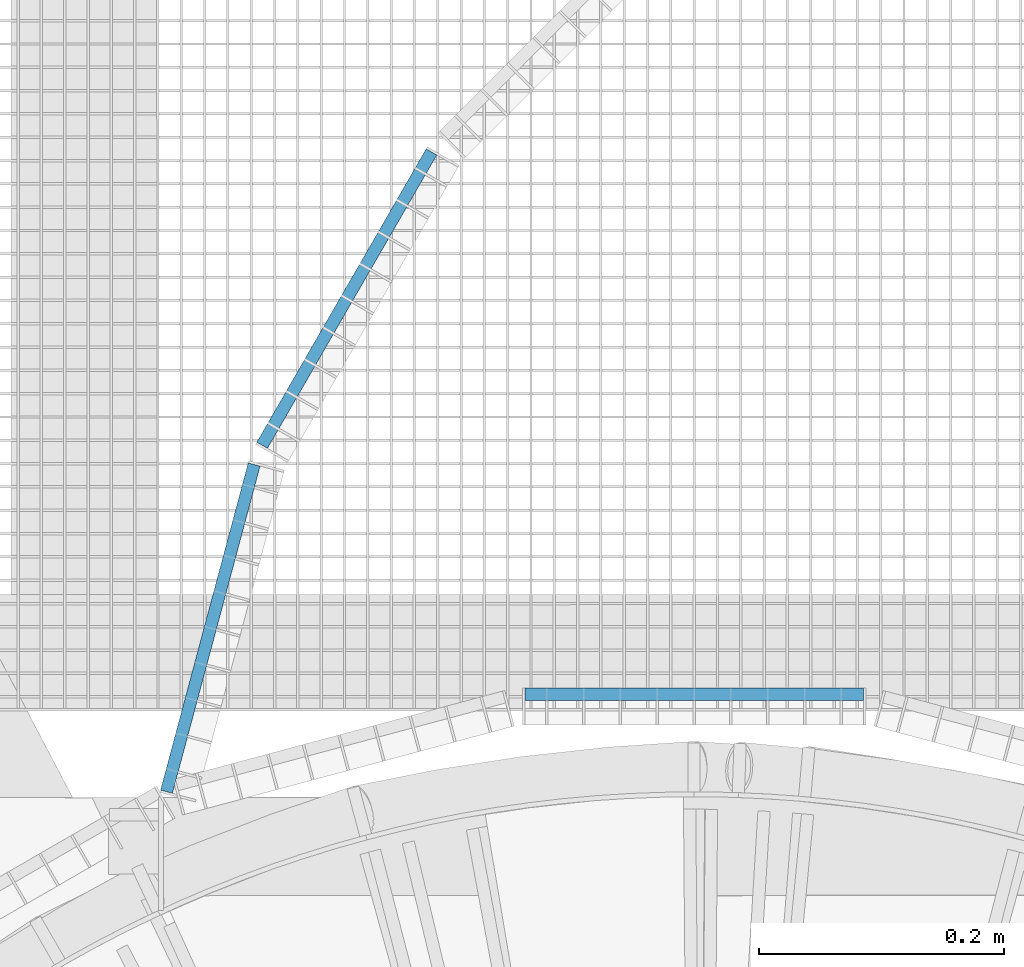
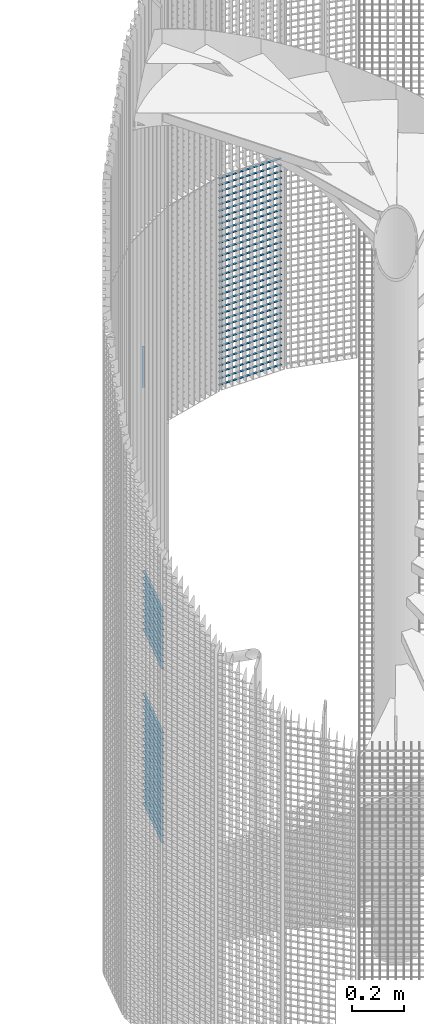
# One storey, part 314 of 1148: 62 beams, 2 elements without a shape of their own.
"""IFC2X3 building model written with IfcOpenShell, lengths in millimetres."""

from ifc_helpers import new_model, si_unit, frame, origin_with_axes, origin_2d_with_axis, place, context, subcontext, project, spatial, rectangle, extrude, material, type_object, element, aggregate, save


model = new_model("IFC2X3")

# Units and contexts
model_context = context("Model", 3, precision=1e-05, world=origin_with_axes())
body_context = subcontext(model_context, "Body", "Model", "MODEL_VIEW")
ifc_project = project(units=[si_unit("LENGTHUNIT", "METRE", prefix="MILLI"), si_unit("AREAUNIT", "SQUARE_METRE"), si_unit("VOLUMEUNIT", "CUBIC_METRE"), si_unit("MASSUNIT", "GRAM", prefix="KILO"), si_unit("TIMEUNIT", "SECOND"), si_unit("PLANEANGLEUNIT", "RADIAN"), si_unit("SOLIDANGLEUNIT", "STERADIAN"), si_unit("THERMODYNAMICTEMPERATUREUNIT", "DEGREE_CELSIUS"), si_unit("LUMINOUSINTENSITYUNIT", "LUMEN")], contexts=[model_context])

# Site, building, storey
site_placement = place(None, origin_with_axes())
site = spatial("IfcSite", under=ifc_project, at=site_placement, Name="Undefined", CompositionType="ELEMENT")
building_placement = place(site_placement, origin_with_axes())
building = spatial("IfcBuilding", under=site, at=building_placement, Name="Undefined", CompositionType="ELEMENT")
storey_placement = place(building_placement, origin_with_axes())
storey = spatial("IfcBuildingStorey", under=building, at=storey_placement, Name="Undefined", CompositionType="ELEMENT", Elevation=0.0)

# Assembly, beams
assembly_1_placement = place(storey_placement, origin_with_axes())
assembly_1 = element("IfcElementAssembly", 1, at=assembly_1_placement, inside=storey, Name="BORDURE", AssemblyPlace="NOTDEFINED", PredefinedType="NOTDEFINED")
ifc_material = material(Name="STEEL/S235JR")
beam_type = type_object("IfcBeamType", Name="PL2*10", PredefinedType="NOTDEFINED")
beam_1_placement = place(assembly_1_placement, frame((-358.548698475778, 1300.76186484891, 539.999999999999), z_axis=(-0.965925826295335, 0.258819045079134, 0.0), x_axis=(-0.258819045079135, -0.965925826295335, 0.0)))
beam_1 = element("IfcBeam", 2, at=beam_1_placement, type_object=beam_type, material=ifc_material, Name="ENTRETOISE", context=body_context, shape_type="SweptSolid", body=[
    extrude(rectangle(XDim=2.0, YDim=10.0, at=origin_2d_with_axis()), frame((275.999999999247, 9.09494701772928e-13, 1.53210777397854e-14), z_axis=(-1.0, 0.0, 0.0), x_axis=(0.0, -1.0, 0.0)), (0.0, 0.0, 1.0), 276.0),
])
beam_2_placement = place(assembly_1_placement, frame((-358.548698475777, 1300.76186484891, 839.999999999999), z_axis=(-0.965925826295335, 0.258819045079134, 0.0), x_axis=(-0.258819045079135, -0.965925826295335, 0.0)))
beam_2 = element("IfcBeam", 3, at=beam_2_placement, type_object=beam_type, material=ifc_material, Name="ENTRETOISE", context=body_context, shape_type="SweptSolid", body=[
    extrude(rectangle(XDim=2.0, YDim=10.0, at=origin_2d_with_axis()), frame((275.999999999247, 9.09494701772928e-13, 1.53210777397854e-14), z_axis=(-1.0, 0.0, 0.0), x_axis=(0.0, -1.0, 0.0)), (0.0, 0.0, 1.0), 276.0),
])
beam_3_placement = place(assembly_1_placement, frame((-358.548698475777, 1300.76186484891, 509.999999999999), z_axis=(-0.965925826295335, 0.258819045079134, 0.0), x_axis=(-0.258819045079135, -0.965925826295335, 0.0)))
beam_3 = element("IfcBeam", 4, at=beam_3_placement, type_object=beam_type, material=ifc_material, Name="ENTRETOISE", context=body_context, shape_type="SweptSolid", body=[
    extrude(rectangle(XDim=2.0, YDim=10.0, at=origin_2d_with_axis()), frame((275.999999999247, 9.09494701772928e-13, 1.53210777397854e-14), z_axis=(-1.0, 0.0, 0.0), x_axis=(0.0, -1.0, 0.0)), (0.0, 0.0, 1.0), 276.0),
])
beam_4_placement = place(assembly_1_placement, frame((-358.548698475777, 1300.76186484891, 479.999999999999), z_axis=(-0.965925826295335, 0.258819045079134, 0.0), x_axis=(-0.258819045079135, -0.965925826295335, 0.0)))
beam_4 = element("IfcBeam", 5, at=beam_4_placement, type_object=beam_type, material=ifc_material, Name="ENTRETOISE", context=body_context, shape_type="SweptSolid", body=[
    extrude(rectangle(XDim=2.0, YDim=10.0, at=origin_2d_with_axis()), frame((275.999999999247, 9.09494701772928e-13, 1.53210777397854e-14), z_axis=(-1.0, 0.0, 0.0), x_axis=(0.0, -1.0, 0.0)), (0.0, 0.0, 1.0), 276.0),
])
beam_5_placement = place(assembly_1_placement, frame((-358.548698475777, 1300.76186484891, 869.999999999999), z_axis=(-0.965925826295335, 0.258819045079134, 0.0), x_axis=(-0.258819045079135, -0.965925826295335, 0.0)))
beam_5 = element("IfcBeam", 6, at=beam_5_placement, type_object=beam_type, material=ifc_material, Name="ENTRETOISE", context=body_context, shape_type="SweptSolid", body=[
    extrude(rectangle(XDim=2.0, YDim=10.0, at=origin_2d_with_axis()), frame((275.999999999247, 9.09494701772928e-13, 1.53210777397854e-14), z_axis=(-1.0, 0.0, 0.0), x_axis=(0.0, -1.0, 0.0)), (0.0, 0.0, 1.0), 276.0),
])
beam_6_placement = place(assembly_1_placement, frame((-358.548698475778, 1300.76186484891, 449.999999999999), z_axis=(-0.965925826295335, 0.258819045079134, 0.0), x_axis=(-0.258819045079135, -0.965925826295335, 0.0)))
beam_6 = element("IfcBeam", 7, at=beam_6_placement, type_object=beam_type, material=ifc_material, Name="ENTRETOISE", context=body_context, shape_type="SweptSolid", body=[
    extrude(rectangle(XDim=2.0, YDim=10.0, at=origin_2d_with_axis()), frame((275.999999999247, 9.09494701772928e-13, 1.53210777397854e-14), z_axis=(-1.0, 0.0, 0.0), x_axis=(0.0, -1.0, 0.0)), (0.0, 0.0, 1.0), 276.0),
])
beam_7_placement = place(assembly_1_placement, frame((-358.548698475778, 1300.76186484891, 419.999999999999), z_axis=(-0.965925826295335, 0.258819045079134, 0.0), x_axis=(-0.258819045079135, -0.965925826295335, 0.0)))
beam_7 = element("IfcBeam", 8, at=beam_7_placement, type_object=beam_type, material=ifc_material, Name="ENTRETOISE", context=body_context, shape_type="SweptSolid", body=[
    extrude(rectangle(XDim=2.0, YDim=10.0, at=origin_2d_with_axis()), frame((275.999999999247, 9.09494701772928e-13, 1.53210777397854e-14), z_axis=(-1.0, 0.0, 0.0), x_axis=(0.0, -1.0, 0.0)), (0.0, 0.0, 1.0), 276.0),
])
beam_8_placement = place(assembly_1_placement, frame((-358.548698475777, 1300.76186484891, 899.999999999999), z_axis=(-0.965925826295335, 0.258819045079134, 0.0), x_axis=(-0.258819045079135, -0.965925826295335, 0.0)))
beam_8 = element("IfcBeam", 9, at=beam_8_placement, type_object=beam_type, material=ifc_material, Name="ENTRETOISE", context=body_context, shape_type="SweptSolid", body=[
    extrude(rectangle(XDim=2.0, YDim=10.0, at=origin_2d_with_axis()), frame((275.999999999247, 9.09494701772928e-13, 1.53210777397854e-14), z_axis=(-1.0, 0.0, 0.0), x_axis=(0.0, -1.0, 0.0)), (0.0, 0.0, 1.0), 276.0),
])
beam_9_placement = place(assembly_1_placement, frame((-358.548698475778, 1300.76186484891, 389.999999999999), z_axis=(-0.965925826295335, 0.258819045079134, 0.0), x_axis=(-0.258819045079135, -0.965925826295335, 0.0)))
beam_9 = element("IfcBeam", 10, at=beam_9_placement, type_object=beam_type, material=ifc_material, Name="ENTRETOISE", context=body_context, shape_type="SweptSolid", body=[
    extrude(rectangle(XDim=2.0, YDim=10.0, at=origin_2d_with_axis()), frame((275.999999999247, 9.09494701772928e-13, 1.53210777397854e-14), z_axis=(-1.0, 0.0, 0.0), x_axis=(0.0, -1.0, 0.0)), (0.0, 0.0, 1.0), 276.0),
])
beam_10_placement = place(assembly_1_placement, frame((-358.548698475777, 1300.76186484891, 929.999999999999), z_axis=(-0.965925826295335, 0.258819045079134, 0.0), x_axis=(-0.258819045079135, -0.965925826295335, 0.0)))
beam_10 = element("IfcBeam", 11, at=beam_10_placement, type_object=beam_type, material=ifc_material, Name="ENTRETOISE", context=body_context, shape_type="SweptSolid", body=[
    extrude(rectangle(XDim=2.0, YDim=10.0, at=origin_2d_with_axis()), frame((275.999999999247, 9.09494701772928e-13, 1.53210777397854e-14), z_axis=(-1.0, 0.0, 0.0), x_axis=(0.0, -1.0, 0.0)), (0.0, 0.0, 1.0), 276.0),
])
beam_11_placement = place(assembly_1_placement, frame((-358.548698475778, 1300.76186484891, 359.999999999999), z_axis=(-0.965925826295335, 0.258819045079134, 0.0), x_axis=(-0.258819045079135, -0.965925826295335, 0.0)))
beam_11 = element("IfcBeam", 12, at=beam_11_placement, type_object=beam_type, material=ifc_material, Name="ENTRETOISE", context=body_context, shape_type="SweptSolid", body=[
    extrude(rectangle(XDim=2.0, YDim=10.0, at=origin_2d_with_axis()), frame((275.999999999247, 9.09494701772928e-13, 1.53210777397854e-14), z_axis=(-1.0, 0.0, 0.0), x_axis=(0.0, -1.0, 0.0)), (0.0, 0.0, 1.0), 276.0),
])
beam_12_placement = place(assembly_1_placement, frame((-358.548698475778, 1300.76186484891, 329.999999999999), z_axis=(-0.965925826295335, 0.258819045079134, 0.0), x_axis=(-0.258819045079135, -0.965925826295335, 0.0)))
beam_12 = element("IfcBeam", 13, at=beam_12_placement, type_object=beam_type, material=ifc_material, Name="ENTRETOISE", context=body_context, shape_type="SweptSolid", body=[
    extrude(rectangle(XDim=2.0, YDim=10.0, at=origin_2d_with_axis()), frame((275.999999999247, 9.09494701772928e-13, 1.53210777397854e-14), z_axis=(-1.0, 0.0, 0.0), x_axis=(0.0, -1.0, 0.0)), (0.0, 0.0, 1.0), 276.0),
])
beam_13_placement = place(assembly_1_placement, frame((-358.548698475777, 1300.76186484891, 959.999999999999), z_axis=(-0.965925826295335, 0.258819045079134, 0.0), x_axis=(-0.258819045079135, -0.965925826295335, 0.0)))
beam_13 = element("IfcBeam", 14, at=beam_13_placement, type_object=beam_type, material=ifc_material, Name="ENTRETOISE", context=body_context, shape_type="SweptSolid", body=[
    extrude(rectangle(XDim=2.0, YDim=10.0, at=origin_2d_with_axis()), frame((275.999999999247, 9.09494701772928e-13, 1.53210777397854e-14), z_axis=(-1.0, 0.0, 0.0), x_axis=(0.0, -1.0, 0.0)), (0.0, 0.0, 1.0), 276.0),
])
beam_14_placement = place(assembly_1_placement, frame((-358.548698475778, 1300.76186484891, 299.999999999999), z_axis=(-0.965925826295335, 0.258819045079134, 0.0), x_axis=(-0.258819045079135, -0.965925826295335, 0.0)))
beam_14 = element("IfcBeam", 15, at=beam_14_placement, type_object=beam_type, material=ifc_material, Name="ENTRETOISE", context=body_context, shape_type="SweptSolid", body=[
    extrude(rectangle(XDim=2.0, YDim=10.0, at=origin_2d_with_axis()), frame((275.999999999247, 9.09494701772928e-13, 1.53210777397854e-14), z_axis=(-1.0, 0.0, 0.0), x_axis=(0.0, -1.0, 0.0)), (0.0, 0.0, 1.0), 276.0),
])
beam_15_placement = place(assembly_1_placement, frame((-358.548698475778, 1300.76186484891, 269.999999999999), z_axis=(-0.965925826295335, 0.258819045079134, 0.0), x_axis=(-0.258819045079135, -0.965925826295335, 0.0)))
beam_15 = element("IfcBeam", 16, at=beam_15_placement, type_object=beam_type, material=ifc_material, Name="ENTRETOISE", context=body_context, shape_type="SweptSolid", body=[
    extrude(rectangle(XDim=2.0, YDim=10.0, at=origin_2d_with_axis()), frame((275.999999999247, 9.09494701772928e-13, 1.53210777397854e-14), z_axis=(-1.0, 0.0, 0.0), x_axis=(0.0, -1.0, 0.0)), (0.0, 0.0, 1.0), 276.0),
])
beam_16_placement = place(assembly_1_placement, frame((-358.548698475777, 1300.76186484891, 989.999999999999), z_axis=(-0.965925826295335, 0.258819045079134, 0.0), x_axis=(-0.258819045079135, -0.965925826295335, 0.0)))
beam_16 = element("IfcBeam", 17, at=beam_16_placement, type_object=beam_type, material=ifc_material, Name="ENTRETOISE", context=body_context, shape_type="SweptSolid", body=[
    extrude(rectangle(XDim=2.0, YDim=10.0, at=origin_2d_with_axis()), frame((275.999999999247, 9.09494701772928e-13, 1.53210777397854e-14), z_axis=(-1.0, 0.0, 0.0), x_axis=(0.0, -1.0, 0.0)), (0.0, 0.0, 1.0), 276.0),
])
beam_17_placement = place(assembly_1_placement, frame((-358.548698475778, 1300.76186484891, 239.999999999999), z_axis=(-0.965925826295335, 0.258819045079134, 0.0), x_axis=(-0.258819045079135, -0.965925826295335, 0.0)))
beam_17 = element("IfcBeam", 18, at=beam_17_placement, type_object=beam_type, material=ifc_material, Name="ENTRETOISE", context=body_context, shape_type="SweptSolid", body=[
    extrude(rectangle(XDim=2.0, YDim=10.0, at=origin_2d_with_axis()), frame((275.999999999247, 9.09494701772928e-13, 1.53210777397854e-14), z_axis=(-1.0, 0.0, 0.0), x_axis=(0.0, -1.0, 0.0)), (0.0, 0.0, 1.0), 276.0),
])
beam_18_placement = place(assembly_1_placement, frame((-358.548698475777, 1300.76186484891, 1020.0), z_axis=(-0.965925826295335, 0.258819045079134, 0.0), x_axis=(-0.258819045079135, -0.965925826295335, 0.0)))
beam_18 = element("IfcBeam", 19, at=beam_18_placement, type_object=beam_type, material=ifc_material, Name="ENTRETOISE", context=body_context, shape_type="SweptSolid", body=[
    extrude(rectangle(XDim=2.0, YDim=10.0, at=origin_2d_with_axis()), frame((275.999999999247, 9.09494701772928e-13, 1.53210777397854e-14), z_axis=(-1.0, 0.0, 0.0), x_axis=(0.0, -1.0, 0.0)), (0.0, 0.0, 1.0), 276.0),
])
beam_19_placement = place(assembly_1_placement, frame((-358.548698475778, 1300.76186484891, 209.999999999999), z_axis=(-0.965925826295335, 0.258819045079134, 0.0), x_axis=(-0.258819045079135, -0.965925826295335, 0.0)))
beam_19 = element("IfcBeam", 20, at=beam_19_placement, type_object=beam_type, material=ifc_material, Name="ENTRETOISE", context=body_context, shape_type="SweptSolid", body=[
    extrude(rectangle(XDim=2.0, YDim=10.0, at=origin_2d_with_axis()), frame((275.999999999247, 9.09494701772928e-13, 1.53210777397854e-14), z_axis=(-1.0, 0.0, 0.0), x_axis=(0.0, -1.0, 0.0)), (0.0, 0.0, 1.0), 276.0),
])
beam_20_placement = place(assembly_1_placement, frame((-358.548698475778, 1300.76186484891, 179.999999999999), z_axis=(-0.965925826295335, 0.258819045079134, 0.0), x_axis=(-0.258819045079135, -0.965925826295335, 0.0)))
beam_20 = element("IfcBeam", 21, at=beam_20_placement, type_object=beam_type, material=ifc_material, Name="ENTRETOISE", context=body_context, shape_type="SweptSolid", body=[
    extrude(rectangle(XDim=2.0, YDim=10.0, at=origin_2d_with_axis()), frame((275.999999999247, 9.09494701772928e-13, 1.53210777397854e-14), z_axis=(-1.0, 0.0, 0.0), x_axis=(0.0, -1.0, 0.0)), (0.0, 0.0, 1.0), 276.0),
])
beam_21_placement = place(assembly_1_placement, frame((-358.548698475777, 1300.76186484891, 1050.0), z_axis=(-0.965925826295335, 0.258819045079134, 0.0), x_axis=(-0.258819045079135, -0.965925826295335, 0.0)))
beam_21 = element("IfcBeam", 22, at=beam_21_placement, type_object=beam_type, material=ifc_material, Name="ENTRETOISE", context=body_context, shape_type="SweptSolid", body=[
    extrude(rectangle(XDim=2.0, YDim=10.0, at=origin_2d_with_axis()), frame((275.999999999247, 9.09494701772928e-13, 1.53210777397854e-14), z_axis=(-1.0, 0.0, 0.0), x_axis=(0.0, -1.0, 0.0)), (0.0, 0.0, 1.0), 276.0),
])
beam_22_placement = place(assembly_1_placement, frame((-358.548698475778, 1300.76186484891, 149.999999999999), z_axis=(-0.965925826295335, 0.258819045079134, 0.0), x_axis=(-0.258819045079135, -0.965925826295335, 0.0)))
beam_22 = element("IfcBeam", 23, at=beam_22_placement, type_object=beam_type, material=ifc_material, Name="ENTRETOISE", context=body_context, shape_type="SweptSolid", body=[
    extrude(rectangle(XDim=2.0, YDim=10.0, at=origin_2d_with_axis()), frame((275.999999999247, 9.09494701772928e-13, 1.53210777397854e-14), z_axis=(-1.0, 0.0, 0.0), x_axis=(0.0, -1.0, 0.0)), (0.0, 0.0, 1.0), 276.0),
])
beam_23_placement = place(assembly_1_placement, frame((-358.548698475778, 1300.76186484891, 119.999999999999), z_axis=(-0.965925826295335, 0.258819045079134, 0.0), x_axis=(-0.258819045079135, -0.965925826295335, 0.0)))
beam_23 = element("IfcBeam", 24, at=beam_23_placement, type_object=beam_type, material=ifc_material, Name="ENTRETOISE", context=body_context, shape_type="SweptSolid", body=[
    extrude(rectangle(XDim=2.0, YDim=10.0, at=origin_2d_with_axis()), frame((275.999999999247, 9.09494701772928e-13, 1.53210777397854e-14), z_axis=(-1.0, 0.0, 0.0), x_axis=(0.0, -1.0, 0.0)), (0.0, 0.0, 1.0), 276.0),
])
beam_24_placement = place(assembly_1_placement, frame((-358.548698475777, 1300.76186484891, 1080.0), z_axis=(-0.965925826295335, 0.258819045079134, 0.0), x_axis=(-0.258819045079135, -0.965925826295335, 0.0)))
beam_24 = element("IfcBeam", 25, at=beam_24_placement, type_object=beam_type, material=ifc_material, Name="ENTRETOISE", context=body_context, shape_type="SweptSolid", body=[
    extrude(rectangle(XDim=2.0, YDim=10.0, at=origin_2d_with_axis()), frame((275.999999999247, 9.09494701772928e-13, 1.53210777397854e-14), z_axis=(-1.0, 0.0, 0.0), x_axis=(0.0, -1.0, 0.0)), (0.0, 0.0, 1.0), 276.0),
])
beam_25_placement = place(assembly_1_placement, frame((-358.548698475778, 1300.76186484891, 89.9999999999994), z_axis=(-0.965925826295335, 0.258819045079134, 0.0), x_axis=(-0.258819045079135, -0.965925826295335, 0.0)))
beam_25 = element("IfcBeam", 26, at=beam_25_placement, type_object=beam_type, material=ifc_material, Name="ENTRETOISE", context=body_context, shape_type="SweptSolid", body=[
    extrude(rectangle(XDim=2.0, YDim=10.0, at=origin_2d_with_axis()), frame((275.999999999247, 9.09494701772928e-13, 1.53210777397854e-14), z_axis=(-1.0, 0.0, 0.0), x_axis=(0.0, -1.0, 0.0)), (0.0, 0.0, 1.0), 276.0),
])
beam_26_placement = place(assembly_1_placement, frame((-358.548698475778, 1300.76186484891, 59.9999999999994), z_axis=(-0.965925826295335, 0.258819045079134, 0.0), x_axis=(-0.258819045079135, -0.965925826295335, 0.0)))
beam_26 = element("IfcBeam", 27, at=beam_26_placement, type_object=beam_type, material=ifc_material, Name="ENTRETOISE", context=body_context, shape_type="SweptSolid", body=[
    extrude(rectangle(XDim=2.0, YDim=10.0, at=origin_2d_with_axis()), frame((275.999999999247, 9.09494701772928e-13, 1.53210777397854e-14), z_axis=(-1.0, 0.0, 0.0), x_axis=(0.0, -1.0, 0.0)), (0.0, 0.0, 1.0), 276.0),
])
beam_27_placement = place(assembly_1_placement, frame((-358.548698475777, 1300.76186484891, 1110.0), z_axis=(-0.965925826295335, 0.258819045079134, 0.0), x_axis=(-0.258819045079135, -0.965925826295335, 0.0)))
beam_27 = element("IfcBeam", 28, at=beam_27_placement, type_object=beam_type, material=ifc_material, Name="ENTRETOISE", context=body_context, shape_type="SweptSolid", body=[
    extrude(rectangle(XDim=2.0, YDim=10.0, at=origin_2d_with_axis()), frame((275.999999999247, 9.09494701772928e-13, 1.53210777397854e-14), z_axis=(-1.0, 0.0, 0.0), x_axis=(0.0, -1.0, 0.0)), (0.0, 0.0, 1.0), 276.0),
])
beam_28_placement = place(assembly_1_placement, frame((-358.548698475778, 1300.7618648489, 29.9999999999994), z_axis=(-0.965925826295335, 0.258819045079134, 0.0), x_axis=(-0.258819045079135, -0.965925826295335, 0.0)))
beam_28 = element("IfcBeam", 29, at=beam_28_placement, type_object=beam_type, material=ifc_material, Name="ENTRETOISE", context=body_context, shape_type="SweptSolid", body=[
    extrude(rectangle(XDim=2.0, YDim=10.0, at=origin_2d_with_axis()), frame((275.999999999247, 9.09494701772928e-13, 1.53210777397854e-14), z_axis=(-1.0, 0.0, 0.0), x_axis=(0.0, -1.0, 0.0)), (0.0, 0.0, 1.0), 276.0),
])
aggregate(assembly_1, [beam_1, beam_2, beam_3, beam_4, beam_5, beam_6, beam_7, beam_8, beam_9, beam_10, beam_11, beam_12, beam_13, beam_14, beam_15, beam_16, beam_17, beam_18, beam_19, beam_20, beam_21, beam_22, beam_23, beam_24, beam_25, beam_26, beam_27, beam_28])

assembly_2_placement = place(storey_placement, origin_with_axes())
assembly_2 = element("IfcElementAssembly", 30, at=assembly_2_placement, inside=storey, Name="BORDURE", AssemblyPlace="NOTDEFINED", PredefinedType="NOTDEFINED")
beam_29_placement = place(assembly_2_placement, frame((137.996003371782, 1113.47999999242, 2970.0), z_axis=(0.0, 1.0, 0.0), x_axis=(-1.0, 0.0, 0.0)))
beam_29 = element("IfcBeam", 31, at=beam_29_placement, type_object=beam_type, material=ifc_material, Name="ENTRETOISE", context=body_context, shape_type="SweptSolid", body=[
    extrude(rectangle(XDim=2.0, YDim=10.0, at=origin_2d_with_axis()), frame((275.999999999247, 9.09494701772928e-13, 1.53210777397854e-14), z_axis=(-1.0, 0.0, 0.0), x_axis=(0.0, -1.0, 0.0)), (0.0, 0.0, 1.0), 276.0),
])
beam_30_placement = place(assembly_2_placement, frame((137.996003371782, 1113.47999999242, 2940.0), z_axis=(0.0, 1.0, 0.0), x_axis=(-1.0, 0.0, 0.0)))
beam_30 = element("IfcBeam", 32, at=beam_30_placement, type_object=beam_type, material=ifc_material, Name="ENTRETOISE", context=body_context, shape_type="SweptSolid", body=[
    extrude(rectangle(XDim=2.0, YDim=10.0, at=origin_2d_with_axis()), frame((275.999999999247, 9.09494701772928e-13, 1.53210777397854e-14), z_axis=(-1.0, 0.0, 0.0), x_axis=(0.0, -1.0, 0.0)), (0.0, 0.0, 1.0), 276.0),
])
beam_31_placement = place(assembly_2_placement, frame((137.996003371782, 1113.47999999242, 2910.0), z_axis=(0.0, 1.0, 0.0), x_axis=(-1.0, 0.0, 0.0)))
beam_31 = element("IfcBeam", 33, at=beam_31_placement, type_object=beam_type, material=ifc_material, Name="ENTRETOISE", context=body_context, shape_type="SweptSolid", body=[
    extrude(rectangle(XDim=2.0, YDim=10.0, at=origin_2d_with_axis()), frame((275.999999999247, 9.09494701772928e-13, 1.53210777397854e-14), z_axis=(-1.0, 0.0, 0.0), x_axis=(0.0, -1.0, 0.0)), (0.0, 0.0, 1.0), 276.0),
])
beam_32_placement = place(assembly_2_placement, frame((137.996003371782, 1113.47999999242, 2880.0), z_axis=(0.0, 1.0, 0.0), x_axis=(-1.0, 0.0, 0.0)))
beam_32 = element("IfcBeam", 34, at=beam_32_placement, type_object=beam_type, material=ifc_material, Name="ENTRETOISE", context=body_context, shape_type="SweptSolid", body=[
    extrude(rectangle(XDim=2.0, YDim=10.0, at=origin_2d_with_axis()), frame((275.999999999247, 9.09494701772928e-13, 1.53210777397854e-14), z_axis=(-1.0, 0.0, 0.0), x_axis=(0.0, -1.0, 0.0)), (0.0, 0.0, 1.0), 276.0),
])
beam_33_placement = place(assembly_2_placement, frame((137.996003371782, 1113.47999999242, 2850.0), z_axis=(0.0, 1.0, 0.0), x_axis=(-1.0, 0.0, 0.0)))
beam_33 = element("IfcBeam", 35, at=beam_33_placement, type_object=beam_type, material=ifc_material, Name="ENTRETOISE", context=body_context, shape_type="SweptSolid", body=[
    extrude(rectangle(XDim=2.0, YDim=10.0, at=origin_2d_with_axis()), frame((275.999999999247, 9.09494701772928e-13, 1.53210777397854e-14), z_axis=(-1.0, 0.0, 0.0), x_axis=(0.0, -1.0, 0.0)), (0.0, 0.0, 1.0), 276.0),
])
beam_34_placement = place(assembly_2_placement, frame((137.996003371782, 1113.47999999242, 2820.0), z_axis=(0.0, 1.0, 0.0), x_axis=(-1.0, 0.0, 0.0)))
beam_34 = element("IfcBeam", 36, at=beam_34_placement, type_object=beam_type, material=ifc_material, Name="ENTRETOISE", context=body_context, shape_type="SweptSolid", body=[
    extrude(rectangle(XDim=2.0, YDim=10.0, at=origin_2d_with_axis()), frame((275.999999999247, 9.09494701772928e-13, 1.53210777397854e-14), z_axis=(-1.0, 0.0, 0.0), x_axis=(0.0, -1.0, 0.0)), (0.0, 0.0, 1.0), 276.0),
])
beam_35_placement = place(assembly_2_placement, frame((137.996003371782, 1113.47999999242, 2790.0), z_axis=(0.0, 1.0, 0.0), x_axis=(-1.0, 0.0, 0.0)))
beam_35 = element("IfcBeam", 37, at=beam_35_placement, type_object=beam_type, material=ifc_material, Name="ENTRETOISE", context=body_context, shape_type="SweptSolid", body=[
    extrude(rectangle(XDim=2.0, YDim=10.0, at=origin_2d_with_axis()), frame((275.999999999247, 9.09494701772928e-13, 1.53210777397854e-14), z_axis=(-1.0, 0.0, 0.0), x_axis=(0.0, -1.0, 0.0)), (0.0, 0.0, 1.0), 276.0),
])
beam_36_placement = place(assembly_2_placement, frame((137.996003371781, 1113.47999999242, 2760.0), z_axis=(0.0, 1.0, 0.0), x_axis=(-1.0, 0.0, 0.0)))
beam_36 = element("IfcBeam", 38, at=beam_36_placement, type_object=beam_type, material=ifc_material, Name="ENTRETOISE", context=body_context, shape_type="SweptSolid", body=[
    extrude(rectangle(XDim=2.0, YDim=10.0, at=origin_2d_with_axis()), frame((275.999999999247, 9.09494701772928e-13, 1.53210777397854e-14), z_axis=(-1.0, 0.0, 0.0), x_axis=(0.0, -1.0, 0.0)), (0.0, 0.0, 1.0), 276.0),
])
beam_37_placement = place(assembly_2_placement, frame((137.996003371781, 1113.47999999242, 2730.0), z_axis=(0.0, 1.0, 0.0), x_axis=(-1.0, 0.0, 0.0)))
beam_37 = element("IfcBeam", 39, at=beam_37_placement, type_object=beam_type, material=ifc_material, Name="ENTRETOISE", context=body_context, shape_type="SweptSolid", body=[
    extrude(rectangle(XDim=2.0, YDim=10.0, at=origin_2d_with_axis()), frame((275.999999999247, 9.09494701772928e-13, 1.53210777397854e-14), z_axis=(-1.0, 0.0, 0.0), x_axis=(0.0, -1.0, 0.0)), (0.0, 0.0, 1.0), 276.0),
])
beam_38_placement = place(assembly_2_placement, frame((137.996003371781, 1113.47999999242, 2700.0), z_axis=(0.0, 1.0, 0.0), x_axis=(-1.0, 0.0, 0.0)))
beam_38 = element("IfcBeam", 40, at=beam_38_placement, type_object=beam_type, material=ifc_material, Name="ENTRETOISE", context=body_context, shape_type="SweptSolid", body=[
    extrude(rectangle(XDim=2.0, YDim=10.0, at=origin_2d_with_axis()), frame((275.999999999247, 9.09494701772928e-13, 1.53210777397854e-14), z_axis=(-1.0, 0.0, 0.0), x_axis=(0.0, -1.0, 0.0)), (0.0, 0.0, 1.0), 276.0),
])
beam_39_placement = place(assembly_2_placement, frame((137.996003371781, 1113.47999999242, 2670.0), z_axis=(0.0, 1.0, 0.0), x_axis=(-1.0, 0.0, 0.0)))
beam_39 = element("IfcBeam", 41, at=beam_39_placement, type_object=beam_type, material=ifc_material, Name="ENTRETOISE", context=body_context, shape_type="SweptSolid", body=[
    extrude(rectangle(XDim=2.0, YDim=10.0, at=origin_2d_with_axis()), frame((275.999999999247, 9.09494701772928e-13, 1.53210777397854e-14), z_axis=(-1.0, 0.0, 0.0), x_axis=(0.0, -1.0, 0.0)), (0.0, 0.0, 1.0), 276.0),
])
beam_40_placement = place(assembly_2_placement, frame((137.996003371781, 1113.47999999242, 2640.0), z_axis=(0.0, 1.0, 0.0), x_axis=(-1.0, 0.0, 0.0)))
beam_40 = element("IfcBeam", 42, at=beam_40_placement, type_object=beam_type, material=ifc_material, Name="ENTRETOISE", context=body_context, shape_type="SweptSolid", body=[
    extrude(rectangle(XDim=2.0, YDim=10.0, at=origin_2d_with_axis()), frame((275.999999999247, 9.09494701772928e-13, 1.53210777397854e-14), z_axis=(-1.0, 0.0, 0.0), x_axis=(0.0, -1.0, 0.0)), (0.0, 0.0, 1.0), 276.0),
])
beam_41_placement = place(assembly_2_placement, frame((137.996003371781, 1113.47999999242, 2610.0), z_axis=(0.0, 1.0, 0.0), x_axis=(-1.0, 0.0, 0.0)))
beam_41 = element("IfcBeam", 43, at=beam_41_placement, type_object=beam_type, material=ifc_material, Name="ENTRETOISE", context=body_context, shape_type="SweptSolid", body=[
    extrude(rectangle(XDim=2.0, YDim=10.0, at=origin_2d_with_axis()), frame((275.999999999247, 9.09494701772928e-13, 1.53210777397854e-14), z_axis=(-1.0, 0.0, 0.0), x_axis=(0.0, -1.0, 0.0)), (0.0, 0.0, 1.0), 276.0),
])
beam_42_placement = place(assembly_2_placement, frame((137.996003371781, 1113.47999999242, 2580.0), z_axis=(0.0, 1.0, 0.0), x_axis=(-1.0, 0.0, 0.0)))
beam_42 = element("IfcBeam", 44, at=beam_42_placement, type_object=beam_type, material=ifc_material, Name="ENTRETOISE", context=body_context, shape_type="SweptSolid", body=[
    extrude(rectangle(XDim=2.0, YDim=10.0, at=origin_2d_with_axis()), frame((275.999999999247, 9.09494701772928e-13, 1.53210777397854e-14), z_axis=(-1.0, 0.0, 0.0), x_axis=(0.0, -1.0, 0.0)), (0.0, 0.0, 1.0), 276.0),
])
beam_43_placement = place(assembly_2_placement, frame((137.996003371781, 1113.47999999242, 2550.0), z_axis=(0.0, 1.0, 0.0), x_axis=(-1.0, 0.0, 0.0)))
beam_43 = element("IfcBeam", 45, at=beam_43_placement, type_object=beam_type, material=ifc_material, Name="ENTRETOISE", context=body_context, shape_type="SweptSolid", body=[
    extrude(rectangle(XDim=2.0, YDim=10.0, at=origin_2d_with_axis()), frame((275.999999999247, 9.09494701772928e-13, 1.53210777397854e-14), z_axis=(-1.0, 0.0, 0.0), x_axis=(0.0, -1.0, 0.0)), (0.0, 0.0, 1.0), 276.0),
])
beam_44_placement = place(assembly_2_placement, frame((137.996003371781, 1113.47999999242, 2520.0), z_axis=(0.0, 1.0, 0.0), x_axis=(-1.0, 0.0, 0.0)))
beam_44 = element("IfcBeam", 46, at=beam_44_placement, type_object=beam_type, material=ifc_material, Name="ENTRETOISE", context=body_context, shape_type="SweptSolid", body=[
    extrude(rectangle(XDim=2.0, YDim=10.0, at=origin_2d_with_axis()), frame((275.999999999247, 9.09494701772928e-13, 1.53210777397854e-14), z_axis=(-1.0, 0.0, 0.0), x_axis=(0.0, -1.0, 0.0)), (0.0, 0.0, 1.0), 276.0),
])
beam_45_placement = place(assembly_2_placement, frame((137.99600337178, 1113.47999999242, 2490.0), z_axis=(0.0, 1.0, 0.0), x_axis=(-1.0, 0.0, 0.0)))
beam_45 = element("IfcBeam", 47, at=beam_45_placement, type_object=beam_type, material=ifc_material, Name="ENTRETOISE", context=body_context, shape_type="SweptSolid", body=[
    extrude(rectangle(XDim=2.0, YDim=10.0, at=origin_2d_with_axis()), frame((275.999999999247, 9.09494701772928e-13, 1.53210777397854e-14), z_axis=(-1.0, 0.0, 0.0), x_axis=(0.0, -1.0, 0.0)), (0.0, 0.0, 1.0), 276.0),
])
beam_46_placement = place(assembly_2_placement, frame((137.99600337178, 1113.47999999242, 2460.0), z_axis=(0.0, 1.0, 0.0), x_axis=(-1.0, 0.0, 0.0)))
beam_46 = element("IfcBeam", 48, at=beam_46_placement, type_object=beam_type, material=ifc_material, Name="ENTRETOISE", context=body_context, shape_type="SweptSolid", body=[
    extrude(rectangle(XDim=2.0, YDim=10.0, at=origin_2d_with_axis()), frame((275.999999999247, 9.09494701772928e-13, 1.53210777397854e-14), z_axis=(-1.0, 0.0, 0.0), x_axis=(0.0, -1.0, 0.0)), (0.0, 0.0, 1.0), 276.0),
])
beam_47_placement = place(assembly_2_placement, frame((137.99600337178, 1113.47999999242, 2430.0), z_axis=(0.0, 1.0, 0.0), x_axis=(-1.0, 0.0, 0.0)))
beam_47 = element("IfcBeam", 49, at=beam_47_placement, type_object=beam_type, material=ifc_material, Name="ENTRETOISE", context=body_context, shape_type="SweptSolid", body=[
    extrude(rectangle(XDim=2.0, YDim=10.0, at=origin_2d_with_axis()), frame((275.999999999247, 9.09494701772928e-13, 1.53210777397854e-14), z_axis=(-1.0, 0.0, 0.0), x_axis=(0.0, -1.0, 0.0)), (0.0, 0.0, 1.0), 276.0),
])
beam_48_placement = place(assembly_2_placement, frame((137.99600337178, 1113.47999999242, 2400.0), z_axis=(0.0, 1.0, 0.0), x_axis=(-1.0, 0.0, 0.0)))
beam_48 = element("IfcBeam", 50, at=beam_48_placement, type_object=beam_type, material=ifc_material, Name="ENTRETOISE", context=body_context, shape_type="SweptSolid", body=[
    extrude(rectangle(XDim=2.0, YDim=10.0, at=origin_2d_with_axis()), frame((275.999999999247, 9.09494701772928e-13, 1.53210777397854e-14), z_axis=(-1.0, 0.0, 0.0), x_axis=(0.0, -1.0, 0.0)), (0.0, 0.0, 1.0), 276.0),
])
beam_49_placement = place(assembly_2_placement, frame((137.99600337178, 1113.47999999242, 2370.0), z_axis=(0.0, 1.0, 0.0), x_axis=(-1.0, 0.0, 0.0)))
beam_49 = element("IfcBeam", 51, at=beam_49_placement, type_object=beam_type, material=ifc_material, Name="ENTRETOISE", context=body_context, shape_type="SweptSolid", body=[
    extrude(rectangle(XDim=2.0, YDim=10.0, at=origin_2d_with_axis()), frame((275.999999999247, 9.09494701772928e-13, 1.53210777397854e-14), z_axis=(-1.0, 0.0, 0.0), x_axis=(0.0, -1.0, 0.0)), (0.0, 0.0, 1.0), 276.0),
])
beam_50_placement = place(assembly_2_placement, frame((137.99600337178, 1113.47999999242, 2340.0), z_axis=(0.0, 1.0, 0.0), x_axis=(-1.0, 0.0, 0.0)))
beam_50 = element("IfcBeam", 52, at=beam_50_placement, type_object=beam_type, material=ifc_material, Name="ENTRETOISE", context=body_context, shape_type="SweptSolid", body=[
    extrude(rectangle(XDim=2.0, YDim=10.0, at=origin_2d_with_axis()), frame((275.999999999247, 9.09494701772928e-13, 1.53210777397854e-14), z_axis=(-1.0, 0.0, 0.0), x_axis=(0.0, -1.0, 0.0)), (0.0, 0.0, 1.0), 276.0),
])
beam_51_placement = place(assembly_2_placement, frame((137.99600337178, 1113.47999999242, 2310.0), z_axis=(0.0, 1.0, 0.0), x_axis=(-1.0, 0.0, 0.0)))
beam_51 = element("IfcBeam", 53, at=beam_51_placement, type_object=beam_type, material=ifc_material, Name="ENTRETOISE", context=body_context, shape_type="SweptSolid", body=[
    extrude(rectangle(XDim=2.0, YDim=10.0, at=origin_2d_with_axis()), frame((275.999999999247, 9.09494701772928e-13, 1.53210777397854e-14), z_axis=(-1.0, 0.0, 0.0), x_axis=(0.0, -1.0, 0.0)), (0.0, 0.0, 1.0), 276.0),
])
beam_52_placement = place(assembly_2_placement, frame((137.99600337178, 1113.47999999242, 2280.0), z_axis=(0.0, 1.0, 0.0), x_axis=(-1.0, 0.0, 0.0)))
beam_52 = element("IfcBeam", 54, at=beam_52_placement, type_object=beam_type, material=ifc_material, Name="ENTRETOISE", context=body_context, shape_type="SweptSolid", body=[
    extrude(rectangle(XDim=2.0, YDim=10.0, at=origin_2d_with_axis()), frame((275.999999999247, 9.09494701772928e-13, 1.53210777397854e-14), z_axis=(-1.0, 0.0, 0.0), x_axis=(0.0, -1.0, 0.0)), (0.0, 0.0, 1.0), 276.0),
])
beam_53_placement = place(assembly_2_placement, frame((137.99600337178, 1113.47999999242, 2250.0), z_axis=(0.0, 1.0, 0.0), x_axis=(-1.0, 0.0, 0.0)))
beam_53 = element("IfcBeam", 55, at=beam_53_placement, type_object=beam_type, material=ifc_material, Name="ENTRETOISE", context=body_context, shape_type="SweptSolid", body=[
    extrude(rectangle(XDim=2.0, YDim=10.0, at=origin_2d_with_axis()), frame((275.999999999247, 9.09494701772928e-13, 1.53210777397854e-14), z_axis=(-1.0, 0.0, 0.0), x_axis=(0.0, -1.0, 0.0)), (0.0, 0.0, 1.0), 276.0),
])
beam_54_placement = place(assembly_2_placement, frame((137.99600337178, 1113.47999999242, 2220.0), z_axis=(0.0, 1.0, 0.0), x_axis=(-1.0, 0.0, 0.0)))
beam_54 = element("IfcBeam", 56, at=beam_54_placement, type_object=beam_type, material=ifc_material, Name="ENTRETOISE", context=body_context, shape_type="SweptSolid", body=[
    extrude(rectangle(XDim=2.0, YDim=10.0, at=origin_2d_with_axis()), frame((275.999999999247, 9.09494701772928e-13, 1.53210777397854e-14), z_axis=(-1.0, 0.0, 0.0), x_axis=(0.0, -1.0, 0.0)), (0.0, 0.0, 1.0), 276.0),
])
beam_55_placement = place(assembly_2_placement, frame((137.996003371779, 1113.47999999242, 2190.0), z_axis=(0.0, 1.0, 0.0), x_axis=(-1.0, 0.0, 0.0)))
beam_55 = element("IfcBeam", 57, at=beam_55_placement, type_object=beam_type, material=ifc_material, Name="ENTRETOISE", context=body_context, shape_type="SweptSolid", body=[
    extrude(rectangle(XDim=2.0, YDim=10.0, at=origin_2d_with_axis()), frame((275.999999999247, 9.09494701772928e-13, 1.53210777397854e-14), z_axis=(-1.0, 0.0, 0.0), x_axis=(0.0, -1.0, 0.0)), (0.0, 0.0, 1.0), 276.0),
])
beam_56_placement = place(assembly_2_placement, frame((137.996003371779, 1113.47999999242, 2160.0), z_axis=(0.0, 1.0, 0.0), x_axis=(-1.0, 0.0, 0.0)))
beam_56 = element("IfcBeam", 58, at=beam_56_placement, type_object=beam_type, material=ifc_material, Name="ENTRETOISE", context=body_context, shape_type="SweptSolid", body=[
    extrude(rectangle(XDim=2.0, YDim=10.0, at=origin_2d_with_axis()), frame((275.999999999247, 9.09494701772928e-13, 1.53210777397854e-14), z_axis=(-1.0, 0.0, 0.0), x_axis=(0.0, -1.0, 0.0)), (0.0, 0.0, 1.0), 276.0),
])
beam_57_placement = place(assembly_2_placement, frame((137.996003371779, 1113.47999999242, 2130.0), z_axis=(0.0, 1.0, 0.0), x_axis=(-1.0, 0.0, 0.0)))
beam_57 = element("IfcBeam", 59, at=beam_57_placement, type_object=beam_type, material=ifc_material, Name="ENTRETOISE", context=body_context, shape_type="SweptSolid", body=[
    extrude(rectangle(XDim=2.0, YDim=10.0, at=origin_2d_with_axis()), frame((275.999999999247, 9.09494701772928e-13, 1.53210777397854e-14), z_axis=(-1.0, 0.0, 0.0), x_axis=(0.0, -1.0, 0.0)), (0.0, 0.0, 1.0), 276.0),
])
beam_58_placement = place(assembly_2_placement, frame((137.996003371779, 1113.47999999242, 2100.0), z_axis=(0.0, 1.0, 0.0), x_axis=(-1.0, 0.0, 0.0)))
beam_58 = element("IfcBeam", 60, at=beam_58_placement, type_object=beam_type, material=ifc_material, Name="ENTRETOISE", context=body_context, shape_type="SweptSolid", body=[
    extrude(rectangle(XDim=2.0, YDim=10.0, at=origin_2d_with_axis()), frame((275.999999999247, 9.09494701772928e-13, 1.53210777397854e-14), z_axis=(-1.0, 0.0, 0.0), x_axis=(0.0, -1.0, 0.0)), (0.0, 0.0, 1.0), 276.0),
])
beam_59_placement = place(assembly_2_placement, frame((137.996003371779, 1113.47999999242, 2070.0), z_axis=(0.0, 1.0, 0.0), x_axis=(-1.0, 0.0, 0.0)))
beam_59 = element("IfcBeam", 61, at=beam_59_placement, type_object=beam_type, material=ifc_material, Name="ENTRETOISE", context=body_context, shape_type="SweptSolid", body=[
    extrude(rectangle(XDim=2.0, YDim=10.0, at=origin_2d_with_axis()), frame((275.999999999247, 9.09494701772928e-13, 1.53210777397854e-14), z_axis=(-1.0, 0.0, 0.0), x_axis=(0.0, -1.0, 0.0)), (0.0, 0.0, 1.0), 276.0),
])
beam_60_placement = place(assembly_2_placement, frame((137.996003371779, 1113.47999999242, 2040.0), z_axis=(0.0, 1.0, 0.0), x_axis=(-1.0, 0.0, 0.0)))
beam_60 = element("IfcBeam", 62, at=beam_60_placement, type_object=beam_type, material=ifc_material, Name="ENTRETOISE", context=body_context, shape_type="SweptSolid", body=[
    extrude(rectangle(XDim=2.0, YDim=10.0, at=origin_2d_with_axis()), frame((275.999999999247, 9.09494701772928e-13, 1.53210777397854e-14), z_axis=(-1.0, 0.0, 0.0), x_axis=(0.0, -1.0, 0.0)), (0.0, 0.0, 1.0), 276.0),
])
beam_61_placement = place(assembly_2_placement, frame((137.996003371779, 1113.47999999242, 2010.0), z_axis=(0.0, 1.0, 0.0), x_axis=(-1.0, 0.0, 0.0)))
beam_61 = element("IfcBeam", 63, at=beam_61_placement, type_object=beam_type, material=ifc_material, Name="ENTRETOISE", context=body_context, shape_type="SweptSolid", body=[
    extrude(rectangle(XDim=2.0, YDim=10.0, at=origin_2d_with_axis()), frame((275.999999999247, 9.09494701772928e-13, 1.53210777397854e-14), z_axis=(-1.0, 0.0, 0.0), x_axis=(0.0, -1.0, 0.0)), (0.0, 0.0, 1.0), 276.0),
])
beam_62_placement = place(assembly_2_placement, frame((-214.029568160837, 1555.52617546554, 1950.0), z_axis=(-0.866025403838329, 0.499999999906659, 0.0), x_axis=(-0.49999999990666, -0.866025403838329, 0.0)))
beam_62 = element("IfcBeam", 64, at=beam_62_placement, type_object=beam_type, material=ifc_material, Name="ENTRETOISE", context=body_context, shape_type="SweptSolid", body=[
    extrude(rectangle(XDim=2.0, YDim=10.0, at=origin_2d_with_axis()), frame((275.999999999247, 9.09494701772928e-13, 1.53210777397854e-14), z_axis=(-1.0, 0.0, 0.0), x_axis=(0.0, -1.0, 0.0)), (0.0, 0.0, 1.0), 276.0),
])
aggregate(assembly_2, [beam_29, beam_30, beam_31, beam_32, beam_33, beam_34, beam_35, beam_36, beam_37, beam_38, beam_39, beam_40, beam_41, beam_42, beam_43, beam_44, beam_45, beam_46, beam_47, beam_48, beam_49, beam_50, beam_51, beam_52, beam_53, beam_54, beam_55, beam_56, beam_57, beam_58, beam_59, beam_60, beam_61, beam_62])

save(model, "model.ifc")
